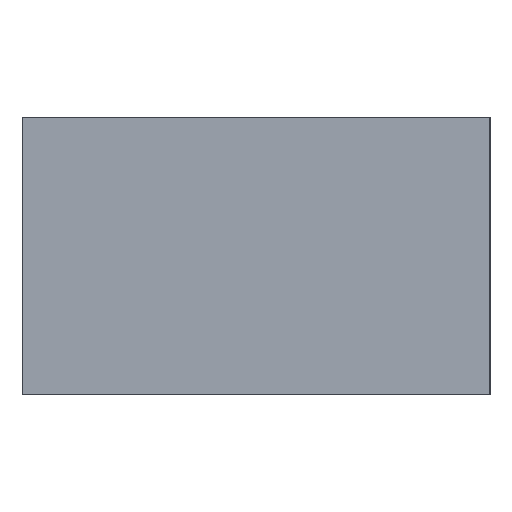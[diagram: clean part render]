
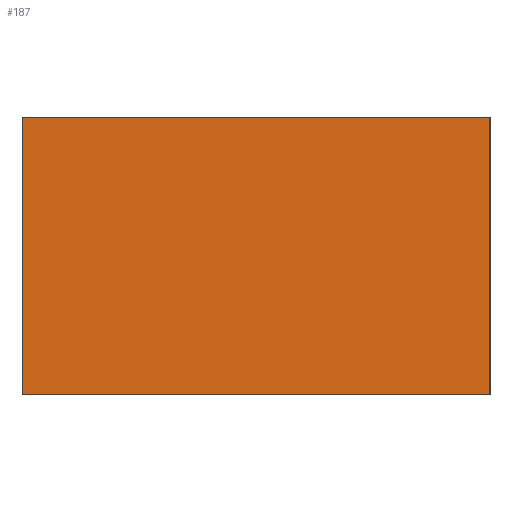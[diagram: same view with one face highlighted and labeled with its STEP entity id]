
A CAD part, left-side view. The second image highlights one B-rep face of the part: STEP entity #187.
In plain terms, the highlighted planar face has unit normal (-1, 0, 0).
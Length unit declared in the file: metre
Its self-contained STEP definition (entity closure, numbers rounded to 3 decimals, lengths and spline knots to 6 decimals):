
#25=ORIENTED_EDGE('',*,*,#71,.F.);
#26=ORIENTED_EDGE('',*,*,#72,.F.);
#27=ORIENTED_EDGE('',*,*,#73,.T.);
#28=ORIENTED_EDGE('',*,*,#74,.T.);
#71=EDGE_CURVE('',#93,#94,#111,.T.);
#72=EDGE_CURVE('',#95,#93,#112,.T.);
#73=EDGE_CURVE('',#95,#96,#113,.T.);
#74=EDGE_CURVE('',#96,#94,#114,.T.);
#93=VERTEX_POINT('',#302);
#94=VERTEX_POINT('',#303);
#95=VERTEX_POINT('',#305);
#96=VERTEX_POINT('',#307);
#111=LINE('',#301,#135);
#112=LINE('',#304,#136);
#113=LINE('',#306,#137);
#114=LINE('',#308,#138);
#135=VECTOR('',#250,1.);
#136=VECTOR('',#251,1.);
#137=VECTOR('',#252,1.);
#138=VECTOR('',#253,1.);
#152=EDGE_LOOP('',(#25,#26,#27,#28));
#164=FACE_BOUND('',#152,.T.);
#176=PLANE('',#222);
#187=ADVANCED_FACE('',(#164),#176,.T.);
#222=AXIS2_PLACEMENT_3D('',#300,#248,#249);
#248=DIRECTION('',(-1.,0.,0.));
#249=DIRECTION('',(0.,0.,1.));
#250=DIRECTION('',(0.,1.,0.));
#251=DIRECTION('',(0.,0.,-1.));
#252=DIRECTION('',(0.,1.,0.));
#253=DIRECTION('',(0.,0.,-1.));
#300=CARTESIAN_POINT('',(0.,0.049289,0.05842));
#301=CARTESIAN_POINT('',(0.,0.049289,0.));
#302=CARTESIAN_POINT('',(0.,0.,0.));
#303=CARTESIAN_POINT('',(0.,0.098577,0.));
#304=CARTESIAN_POINT('',(0.,0.,0.05842));
#305=CARTESIAN_POINT('',(0.,0.,0.05842));
#306=CARTESIAN_POINT('',(0.,0.049289,0.05842));
#307=CARTESIAN_POINT('',(0.,0.098577,0.05842));
#308=CARTESIAN_POINT('',(0.,0.098577,0.05842));
